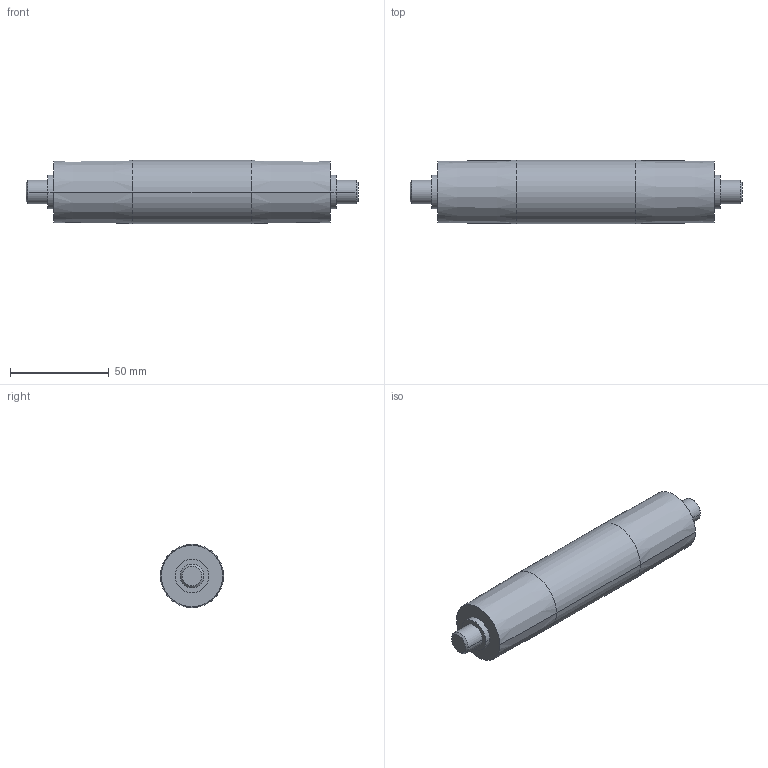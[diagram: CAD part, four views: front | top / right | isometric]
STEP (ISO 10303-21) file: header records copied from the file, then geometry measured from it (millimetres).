
FILE_DESCRIPTION (( 'STEP AP214' ), '1' );
FILE_NAME ('084.030.180.STEP', '2021-02-05T15:47:36', ( '' ), ( '' ), 'SwSTEP 2.0', 'SolidWorks 2018', '' );
FILE_SCHEMA (( 'AUTOMOTIVE_DESIGN' ));
Length unit declared in the file: millimetre
Products named in the file (1): 084.030.180
Bounding box: 168 x 32 x 32 mm (x, y, z)
Volume: 114419.4 mm3; surface area: 16561.9 mm2
Topology: 1 solids, 1 shells, 24 faces, 46 edges, 28 vertices
Faces by surface type: cylinder 10, cone 8, plane 6
Entity records: 648 total; most frequent: DIRECTION 124, CARTESIAN_POINT 99, ORIENTED_EDGE 92, AXIS2_PLACEMENT_3D 53, EDGE_CURVE 46, VERTEX_POINT 28, EDGE_LOOP 28, CIRCLE 28
